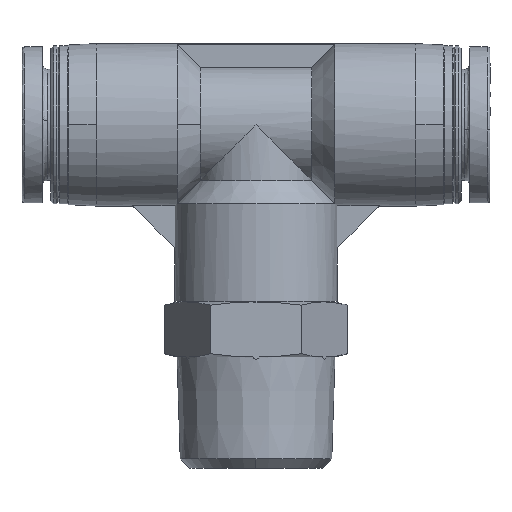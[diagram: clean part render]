
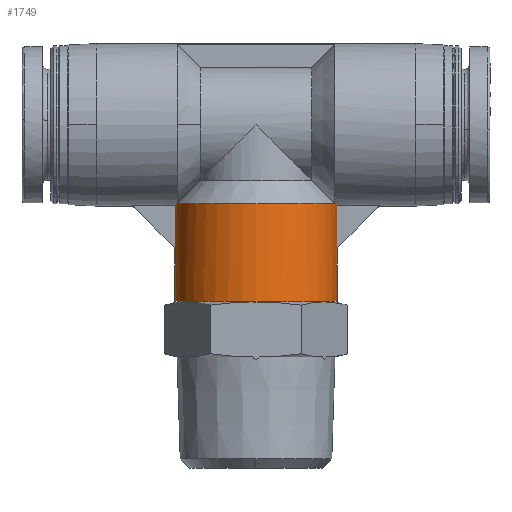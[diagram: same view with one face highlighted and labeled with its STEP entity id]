
A CAD part, front view. The second image highlights one B-rep face of the part: STEP entity #1749.
In plain terms, the highlighted cylindrical face has radius 8.75 mm (diameter 17.5 mm), a partial arc.
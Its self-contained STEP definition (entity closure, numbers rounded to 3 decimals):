
#14 = LINE ( 'NONE', #2015, #360 ) ;
#23 = ORIENTED_EDGE ( 'NONE', *, *, #720, .F. ) ;
#38 = CIRCLE ( 'NONE', #2088, 8.75 ) ;
#104 = DIRECTION ( 'NONE',  ( 0., 0., 1. ) ) ;
#112 =( BOUNDED_CURVE ( )  B_SPLINE_CURVE ( 3, ( #1858, #1910, #2463, #3594 ),
 .UNSPECIFIED., .F., .T. ) 
 B_SPLINE_CURVE_WITH_KNOTS ( ( 4, 4 ),
 ( 0., 0.115 ),
 .UNSPECIFIED. ) 
 CURVE ( )  GEOMETRIC_REPRESENTATION_ITEM ( )  RATIONAL_B_SPLINE_CURVE ( ( 1., 0.999, 0.999, 1. ) ) 
 REPRESENTATION_ITEM ( '' )  );
#130 = CARTESIAN_POINT ( 'NONE',  ( -8.5, -2.077, 28.5 ) ) ;
#158 = CARTESIAN_POINT ( 'NONE',  ( 8.731, -0.668, 23.731 ) ) ;
#173 = DIRECTION ( 'NONE',  ( 1., 0., 0. ) ) ;
#175 = VERTEX_POINT ( 'NONE', #3244 ) ;
#194 = EDGE_CURVE ( 'NONE', #1336, #841, #3268, .T. ) ;
#277 = ORIENTED_EDGE ( 'NONE', *, *, #571, .T. ) ;
#360 = VECTOR ( 'NONE', #1669, 1000. ) ;
#379 = CARTESIAN_POINT ( 'NONE',  ( 8.75, -0.334, 23.75 ) ) ;
#455 = CARTESIAN_POINT ( 'NONE',  ( 8.587, -1.722, 28.413 ) ) ;
#474 = ORIENTED_EDGE ( 'NONE', *, *, #3624, .F. ) ;
#504 = CARTESIAN_POINT ( 'NONE',  ( 8.75, 0., 18. ) ) ;
#522 = VERTEX_POINT ( 'NONE', #746 ) ;
#525 = CARTESIAN_POINT ( 'NONE',  ( -8.75, 0., 18. ) ) ;
#527 = CYLINDRICAL_SURFACE ( 'NONE', #2509, 8.75 ) ;
#546 = DIRECTION ( 'NONE',  ( 1., 0., 0. ) ) ;
#571 = EDGE_CURVE ( 'NONE', #3619, #634, #1291, .T. ) ;
#583 = ORIENTED_EDGE ( 'NONE', *, *, #2003, .T. ) ;
#603 = CARTESIAN_POINT ( 'NONE',  ( 0., 0., 28.5 ) ) ;
#605 = VECTOR ( 'NONE', #2974, 1000. ) ;
#634 = VERTEX_POINT ( 'NONE', #1818 ) ;
#641 = EDGE_CURVE ( 'NONE', #3503, #1130, #1507, .T. ) ;
#662 = CARTESIAN_POINT ( 'NONE',  ( -8.587, -1.722, 28.413 ) ) ;
#720 = EDGE_CURVE ( 'NONE', #2039, #3032, #2012, .T. ) ;
#746 = CARTESIAN_POINT ( 'NONE',  ( -8.693, -1., 23.693 ) ) ;
#748 = DIRECTION ( 'NONE',  ( 0., 0., 1. ) ) ;
#776 = ORIENTED_EDGE ( 'NONE', *, *, #1594, .T. ) ;
#841 = VERTEX_POINT ( 'NONE', #3068 ) ;
#900 = ORIENTED_EDGE ( 'NONE', *, *, #1417, .F. ) ;
#959 = CARTESIAN_POINT ( 'NONE',  ( -8.5, -2.077, 28.5 ) ) ;
#1067 = ORIENTED_EDGE ( 'NONE', *, *, #641, .T. ) ;
#1130 = VERTEX_POINT ( 'NONE', #3464 ) ;
#1133 =( BOUNDED_CURVE ( )  B_SPLINE_CURVE ( 3, ( #2438, #3534, #455, #3569 ),
 .UNSPECIFIED., .F., .T. ) 
 B_SPLINE_CURVE_WITH_KNOTS ( ( 4, 4 ),
 ( 3.256, 3.381 ),
 .UNSPECIFIED. ) 
 CURVE ( )  GEOMETRIC_REPRESENTATION_ITEM ( )  RATIONAL_B_SPLINE_CURVE ( ( 1., 0.999, 0.999, 1. ) ) 
 REPRESENTATION_ITEM ( '' )  );
#1145 = EDGE_CURVE ( 'NONE', #3032, #522, #112, .T. ) ;
#1270 = DIRECTION ( 'NONE',  ( 0., 0., 1. ) ) ;
#1291 = LINE ( 'NONE', #504, #2955 ) ;
#1293 = CARTESIAN_POINT ( 'NONE',  ( 8.75, 0., 23.75 ) ) ;
#1297 = ORIENTED_EDGE ( 'NONE', *, *, #194, .F. ) ;
#1336 = VERTEX_POINT ( 'NONE', #2293 ) ;
#1363 = VECTOR ( 'NONE', #104, 1000. ) ;
#1392 = EDGE_CURVE ( 'NONE', #3503, #175, #3312, .T. ) ;
#1417 = EDGE_CURVE ( 'NONE', #522, #1130, #14, .T. ) ;
#1436 = DIRECTION ( 'NONE',  ( 0.975, -0.222, 0. ) ) ;
#1507 =( BOUNDED_CURVE ( )  B_SPLINE_CURVE ( 3, ( #959, #662, #2048, #2952 ),
 .UNSPECIFIED., .F., .T. ) 
 B_SPLINE_CURVE_WITH_KNOTS ( ( 4, 4 ),
 ( 6.044, 6.169 ),
 .UNSPECIFIED. ) 
 CURVE ( )  GEOMETRIC_REPRESENTATION_ITEM ( )  RATIONAL_B_SPLINE_CURVE ( ( 1., 0.999, 0.999, 1. ) ) 
 REPRESENTATION_ITEM ( '' )  );
#1594 = EDGE_CURVE ( 'NONE', #1336, #175, #1133, .T. ) ;
#1669 = DIRECTION ( 'NONE',  ( 0., 0., 1. ) ) ;
#1749 = ADVANCED_FACE ( '44', ( #1940 ), #527, .T. ) ;
#1797 = CARTESIAN_POINT ( 'NONE',  ( 8.75, 0., 18. ) ) ;
#1818 = CARTESIAN_POINT ( 'NONE',  ( 8.75, 0., 23.75 ) ) ;
#1858 = CARTESIAN_POINT ( 'NONE',  ( -8.75, 0., 23.75 ) ) ;
#1910 = CARTESIAN_POINT ( 'NONE',  ( -8.75, -0.334, 23.75 ) ) ;
#1940 = FACE_OUTER_BOUND ( 'NONE', #3290, .T. ) ;
#2003 = EDGE_CURVE ( 'NONE', #2039, #3619, #38, .T. ) ;
#2012 = LINE ( 'NONE', #2327, #1363 ) ;
#2015 = CARTESIAN_POINT ( 'NONE',  ( -8.693, -1., 28.307 ) ) ;
#2039 = VERTEX_POINT ( 'NONE', #525 ) ;
#2048 = CARTESIAN_POINT ( 'NONE',  ( -8.651, -1.363, 28.349 ) ) ;
#2059 = CARTESIAN_POINT ( 'NONE',  ( -8.75, 0., 23.75 ) ) ;
#2088 = AXIS2_PLACEMENT_3D ( 'NONE', #2711, #748, #173 ) ;
#2119 = CARTESIAN_POINT ( 'NONE',  ( 8.693, -1., 23.693 ) ) ;
#2293 = CARTESIAN_POINT ( 'NONE',  ( 8.693, -1., 28.307 ) ) ;
#2327 = CARTESIAN_POINT ( 'NONE',  ( -8.75, 0., 18. ) ) ;
#2438 = CARTESIAN_POINT ( 'NONE',  ( 8.693, -1., 28.307 ) ) ;
#2463 = CARTESIAN_POINT ( 'NONE',  ( -8.731, -0.668, 23.731 ) ) ;
#2509 = AXIS2_PLACEMENT_3D ( 'NONE', #3078, #3337, #546 ) ;
#2519 = DIRECTION ( 'NONE',  ( 0., 0., 1. ) ) ;
#2711 = CARTESIAN_POINT ( 'NONE',  ( 0., 0., 18. ) ) ;
#2890 = ORIENTED_EDGE ( 'NONE', *, *, #1392, .F. ) ;
#2902 =( BOUNDED_CURVE ( )  B_SPLINE_CURVE ( 3, ( #2119, #158, #379, #1293 ),
 .UNSPECIFIED., .F., .T. ) 
 B_SPLINE_CURVE_WITH_KNOTS ( ( 4, 4 ),
 ( 6.169, 6.283 ),
 .UNSPECIFIED. ) 
 CURVE ( )  GEOMETRIC_REPRESENTATION_ITEM ( )  RATIONAL_B_SPLINE_CURVE ( ( 1., 0.999, 0.999, 1. ) ) 
 REPRESENTATION_ITEM ( '' )  );
#2952 = CARTESIAN_POINT ( 'NONE',  ( -8.693, -1., 28.307 ) ) ;
#2955 = VECTOR ( 'NONE', #1270, 1000. ) ;
#2974 = DIRECTION ( 'NONE',  ( 0., 0., -1. ) ) ;
#3032 = VERTEX_POINT ( 'NONE', #2059 ) ;
#3068 = CARTESIAN_POINT ( 'NONE',  ( 8.693, -1., 23.693 ) ) ;
#3075 = AXIS2_PLACEMENT_3D ( 'NONE', #603, #2519, #1436 ) ;
#3078 = CARTESIAN_POINT ( 'NONE',  ( 0., 0., 18. ) ) ;
#3154 = ORIENTED_EDGE ( 'NONE', *, *, #1145, .F. ) ;
#3244 = CARTESIAN_POINT ( 'NONE',  ( 8.5, -2.077, 28.5 ) ) ;
#3268 = LINE ( 'NONE', #3587, #605 ) ;
#3290 = EDGE_LOOP ( 'NONE', ( #23, #583, #277, #474, #1297, #776, #2890, #1067, #900, #3154 ) ) ;
#3312 = CIRCLE ( 'NONE', #3075, 8.75 ) ;
#3337 = DIRECTION ( 'NONE',  ( 0., 0., 1. ) ) ;
#3464 = CARTESIAN_POINT ( 'NONE',  ( -8.693, -1., 28.307 ) ) ;
#3503 = VERTEX_POINT ( 'NONE', #130 ) ;
#3534 = CARTESIAN_POINT ( 'NONE',  ( 8.651, -1.363, 28.349 ) ) ;
#3569 = CARTESIAN_POINT ( 'NONE',  ( 8.5, -2.077, 28.5 ) ) ;
#3587 = CARTESIAN_POINT ( 'NONE',  ( 8.693, -1., 28.307 ) ) ;
#3594 = CARTESIAN_POINT ( 'NONE',  ( -8.693, -1., 23.693 ) ) ;
#3619 = VERTEX_POINT ( 'NONE', #1797 ) ;
#3624 = EDGE_CURVE ( 'NONE', #841, #634, #2902, .T. ) ;
